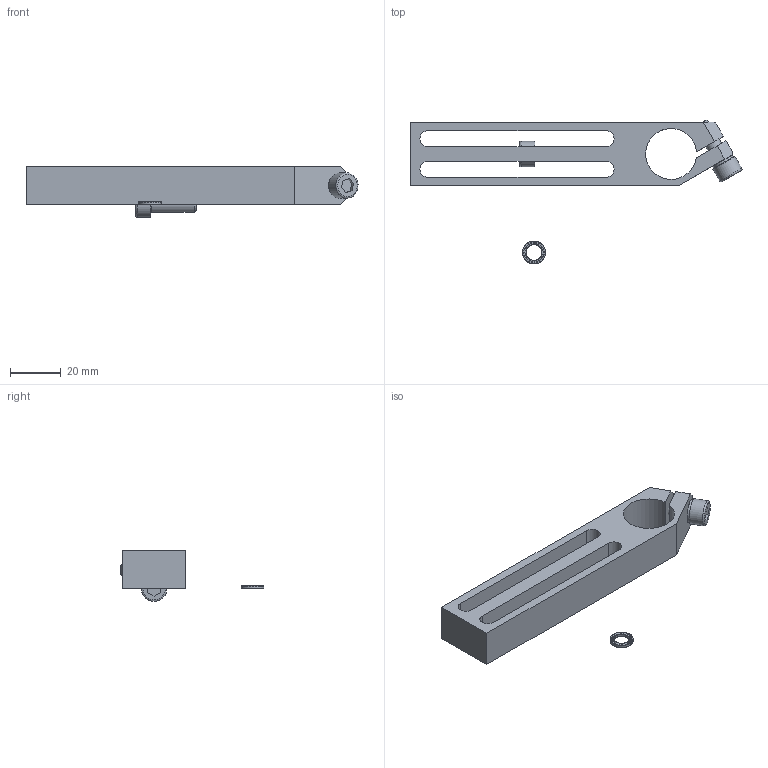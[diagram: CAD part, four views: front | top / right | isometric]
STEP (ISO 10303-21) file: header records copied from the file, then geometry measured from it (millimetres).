
FILE_DESCRIPTION( ( 'STEP AP214' ), '1' );
FILE_NAME( 'C:/Users/Segreteria/Desktop/CA.WSL.2070.VU.stp', '2014-07-10T13:28:07', ( ' ' ), ( ' ' ), 'XStep 1.0', ' ', ' ' );
FILE_SCHEMA( ( 'CONFIG_CONTROL_DESIGN) ( )' ) );
Length unit declared in the file: metre
Products named in the file (4): Assem1; WSL.2070.VU; V-tcei M  6 x 18; R.6.SCH
Bounding box: 130.32 x 56.49 x 20 mm (x, y, z)
Volume: 52535.5 mm3; surface area: 29393.6 mm2
Topology: 4 solids, 6 shells, 472 faces, 1378 edges, 916 vertices
Faces by surface type: plane 440, cylinder 26, torus 4, cone 2
Full cylindrical faces by diameter (mm): 4.917 x2, 6 x2, 6.2 x4, 9 x2, 10 x2
Entity records: 8068 total; most frequent: DIRECTION 1371, CARTESIAN_POINT 1367, ORIENTED_EDGE 1348, EDGE_CURVE 674, AXIS2_PLACEMENT_3D 457, LINE 457, VECTOR 457, VERTEX_POINT 453
